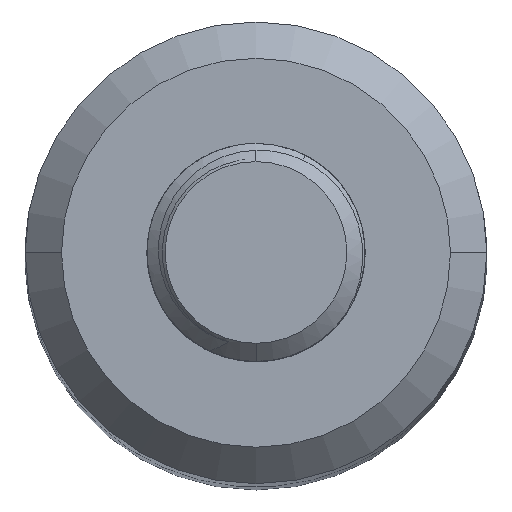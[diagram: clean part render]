
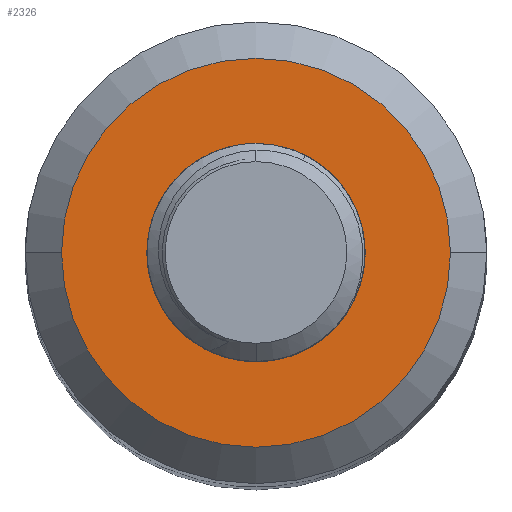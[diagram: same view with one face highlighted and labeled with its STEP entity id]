
A CAD part, top view. The second image highlights one B-rep face of the part: STEP entity #2326.
In plain terms, the highlighted planar face has unit normal (0, 0, 1).
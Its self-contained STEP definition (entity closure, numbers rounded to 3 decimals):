
#229=CARTESIAN_POINT('',(0.,0.,101.6));
#230=DIRECTION('',(0.,0.,1.));
#231=DIRECTION('',(-1.,0.,0.));
#232=AXIS2_PLACEMENT_3D('',#229,#230,#231);
#234=CARTESIAN_POINT('',(0.,0.,101.6));
#235=DIRECTION('',(0.,0.,1.));
#236=DIRECTION('',(1.,0.,0.));
#237=AXIS2_PLACEMENT_3D('',#234,#235,#236);
#239=CARTESIAN_POINT('',(0.,0.,101.6));
#240=DIRECTION('',(0.,0.,-1.));
#241=DIRECTION('',(0.,1.,0.));
#242=AXIS2_PLACEMENT_3D('',#239,#240,#241);
#244=CARTESIAN_POINT('',(0.,0.,101.6));
#245=DIRECTION('',(0.,0.,-1.));
#246=DIRECTION('',(0.,-1.,0.));
#247=AXIS2_PLACEMENT_3D('',#244,#245,#246);
#1959=CARTESIAN_POINT('',(-5.35,0.,101.6));
#1960=CARTESIAN_POINT('',(5.35,0.,101.6));
#1961=VERTEX_POINT('',#1959);
#1962=VERTEX_POINT('',#1960);
#2003=CARTESIAN_POINT('',(0.,2.,101.6));
#2004=CARTESIAN_POINT('',(0.,-2.,101.6));
#2005=VERTEX_POINT('',#2003);
#2006=VERTEX_POINT('',#2004);
#2310=CARTESIAN_POINT('',(0.,0.,101.6));
#2311=DIRECTION('',(0.,0.,1.));
#2312=DIRECTION('',(1.,0.,0.));
#2313=AXIS2_PLACEMENT_3D('',#2310,#2311,#2312);
#2314=PLANE('',#2313);
#2315=ORIENTED_EDGE('',*,*,#2300,.F.);
#2317=ORIENTED_EDGE('',*,*,#2316,.F.);
#2318=EDGE_LOOP('',(#2315,#2317));
#2319=FACE_OUTER_BOUND('',#2318,.F.);
#2321=ORIENTED_EDGE('',*,*,#2320,.F.);
#2323=ORIENTED_EDGE('',*,*,#2322,.F.);
#2324=EDGE_LOOP('',(#2321,#2323));
#2325=FACE_BOUND('',#2324,.F.);
#2326=ADVANCED_FACE('',(#2319,#2325),#2314,.T.);
#233=CIRCLE('',#232,5.35);
#238=CIRCLE('',#237,5.35);
#243=CIRCLE('',#242,2.);
#248=CIRCLE('',#247,2.);
#2300=EDGE_CURVE('',#1961,#1962,#233,.T.);
#2316=EDGE_CURVE('',#1962,#1961,#238,.T.);
#2320=EDGE_CURVE('',#2005,#2006,#243,.T.);
#2322=EDGE_CURVE('',#2006,#2005,#248,.T.);
